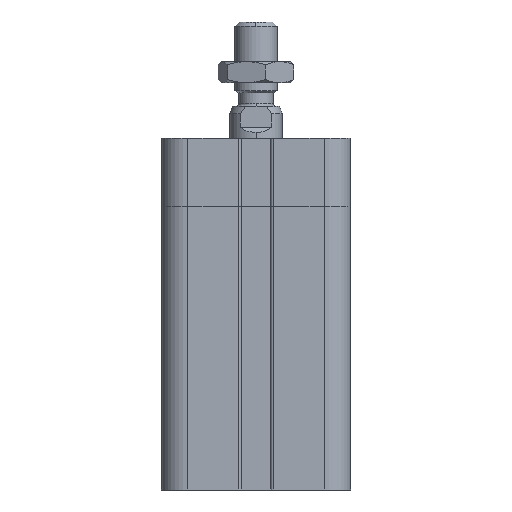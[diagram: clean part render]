
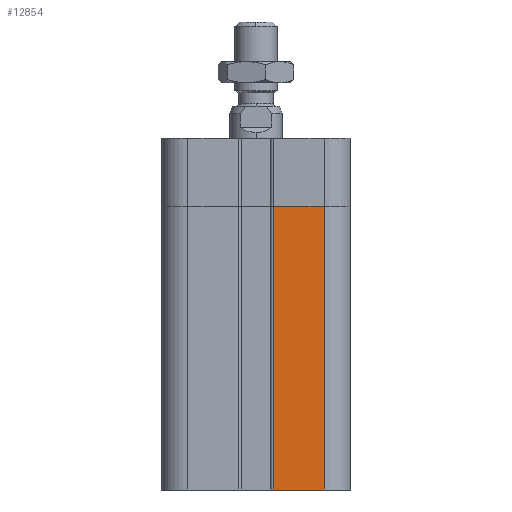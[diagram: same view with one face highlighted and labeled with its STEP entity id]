
A CAD part, left-side view. The second image highlights one B-rep face of the part: STEP entity #12854.
In plain terms, the highlighted planar face has unit normal (-1, 0, 0).
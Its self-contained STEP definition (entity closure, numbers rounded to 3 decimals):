
#122 = CARTESIAN_POINT ( 'NONE',  ( -18., -3.299, -30. ) ) ;
#209 = DIRECTION ( 'NONE',  ( 0., 0., -1. ) ) ;
#359 = ORIENTED_EDGE ( 'NONE', *, *, #9696, .T. ) ;
#1204 = LINE ( 'NONE', #12255, #2981 ) ;
#1400 = CARTESIAN_POINT ( 'NONE',  ( -18., 18., 94. ) ) ;
#1580 = VERTEX_POINT ( 'NONE', #4038 ) ;
#2421 = LINE ( 'NONE', #4687, #7652 ) ;
#2769 = EDGE_CURVE ( 'NONE', #11578, #9389, #4765, .T. ) ;
#2981 = VECTOR ( 'NONE', #7262, 1000. ) ;
#3987 = VECTOR ( 'NONE', #209, 1000. ) ;
#4038 = CARTESIAN_POINT ( 'NONE',  ( -18., -13., 24. ) ) ;
#4479 = ORIENTED_EDGE ( 'NONE', *, *, #8357, .F. ) ;
#4484 = LINE ( 'NONE', #9533, #3987 ) ;
#4537 = DIRECTION ( 'NONE',  ( 0., 0., -1. ) ) ;
#4559 = EDGE_CURVE ( 'NONE', #5424, #11578, #4484, .T. ) ;
#4589 = AXIS2_PLACEMENT_3D ( 'NONE', #1400, #8709, #4537 ) ;
#4601 = DIRECTION ( 'NONE',  ( 0., 0., 1. ) ) ;
#4687 = CARTESIAN_POINT ( 'NONE',  ( -18., -13., 94. ) ) ;
#4765 = LINE ( 'NONE', #10687, #12385 ) ;
#4794 = CARTESIAN_POINT ( 'NONE',  ( -18., -13., -30. ) ) ;
#4925 = ORIENTED_EDGE ( 'NONE', *, *, #2769, .T. ) ;
#5424 = VERTEX_POINT ( 'NONE', #10930 ) ;
#5463 = ORIENTED_EDGE ( 'NONE', *, *, #4559, .T. ) ;
#5499 = PLANE ( 'NONE',  #4589 ) ;
#6480 = DIRECTION ( 'NONE',  ( 0., -1., 0. ) ) ;
#7262 = DIRECTION ( 'NONE',  ( 0., -1., 0. ) ) ;
#7652 = VECTOR ( 'NONE', #4601, 1000. ) ;
#8357 = EDGE_CURVE ( 'NONE', #5424, #1580, #1204, .T. ) ;
#8709 = DIRECTION ( 'NONE',  ( 1., 0., 0. ) ) ;
#9219 = EDGE_LOOP ( 'NONE', ( #359, #4479, #5463, #4925 ) ) ;
#9389 = VERTEX_POINT ( 'NONE', #4794 ) ;
#9533 = CARTESIAN_POINT ( 'NONE',  ( -18., -3.299, 94. ) ) ;
#9696 = EDGE_CURVE ( 'NONE', #9389, #1580, #2421, .T. ) ;
#10687 = CARTESIAN_POINT ( 'NONE',  ( -18., 18., -30. ) ) ;
#10930 = CARTESIAN_POINT ( 'NONE',  ( -18., -3.299, 24. ) ) ;
#11578 = VERTEX_POINT ( 'NONE', #122 ) ;
#11595 = FACE_OUTER_BOUND ( 'NONE', #9219, .T. ) ;
#12255 = CARTESIAN_POINT ( 'NONE',  ( -18., -3.299, 24. ) ) ;
#12385 = VECTOR ( 'NONE', #6480, 1000. ) ;
#12854 = ADVANCED_FACE ( 'NONE', ( #11595 ), #5499, .F. ) ;
